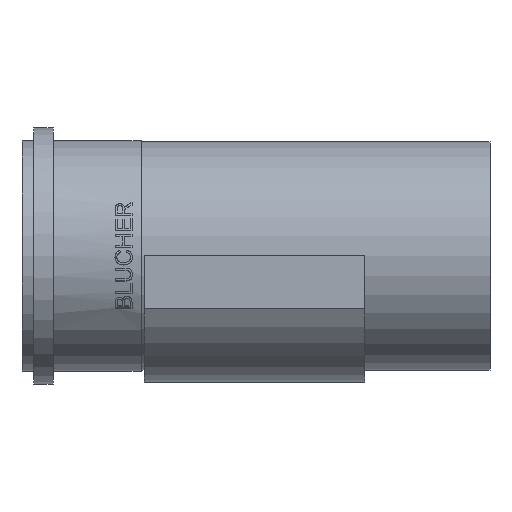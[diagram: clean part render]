
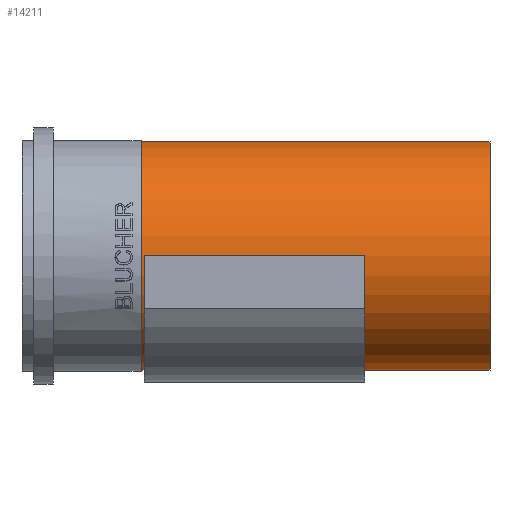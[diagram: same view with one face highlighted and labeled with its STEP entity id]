
A CAD part, top view. The second image highlights one B-rep face of the part: STEP entity #14211.
In plain terms, the highlighted cylindrical face has radius 62.484 mm (diameter 124.968 mm), a full revolution.
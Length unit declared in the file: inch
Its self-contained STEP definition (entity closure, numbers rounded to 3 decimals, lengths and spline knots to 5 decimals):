
#13939=CARTESIAN_POINT('',(-2.375,0.0,-2.46));
#13940=VERTEX_POINT('',#13939);
#13956=CARTESIAN_POINT('',(-2.375,0.0,2.46));
#13957=VERTEX_POINT('',#13956);
#13964=CARTESIAN_POINT('',(-2.375,0.0,0.0));
#13965=DIRECTION('',(-1.0,0.0,0.0));
#13966=DIRECTION('',(0.0,1.0,0.0));
#13967=AXIS2_PLACEMENT_3D('',#13964,#13965,#13966);
#13968=CIRCLE('',#13967,2.46);
#13969=EDGE_CURVE('',#13940,#13957,#13968,.T.);
#13981=CARTESIAN_POINT('',(2.375,0.0,2.46));
#13982=VERTEX_POINT('',#13981);
#13989=CARTESIAN_POINT('',(-2.375,0.0,2.46));
#13990=DIRECTION('',(1.0,0.0,0.0));
#13991=VECTOR('',#13990,4.75);
#13992=LINE('',#13989,#13991);
#13993=EDGE_CURVE('',#13957,#13982,#13992,.T.);
#14010=CARTESIAN_POINT('',(2.375,0.0,-2.46));
#14011=VERTEX_POINT('',#14010);
#14027=CARTESIAN_POINT('',(-2.375,0.0,-2.46));
#14028=DIRECTION('',(1.0,0.0,0.0));
#14029=VECTOR('',#14028,4.75);
#14030=LINE('',#14027,#14029);
#14031=EDGE_CURVE('',#13940,#14011,#14030,.T.);
#14062=CARTESIAN_POINT('',(2.375,0.0,0.0));
#14063=DIRECTION('',(1.0,0.0,0.0));
#14064=DIRECTION('',(0.0,1.0,0.0));
#14065=AXIS2_PLACEMENT_3D('',#14062,#14063,#14064);
#14066=CIRCLE('',#14065,2.46);
#14067=EDGE_CURVE('',#13982,#14011,#14066,.T.);
#14174=CARTESIAN_POINT('',(-2.4375,2.46,0.0));
#14175=VERTEX_POINT('',#14174);
#14176=CARTESIAN_POINT('',(-2.4375,0.0,0.0));
#14177=DIRECTION('',(1.0,0.0,0.0));
#14178=DIRECTION('',(0.0,1.0,0.0));
#14179=AXIS2_PLACEMENT_3D('',#14176,#14177,#14178);
#14180=CIRCLE('',#14179,2.46);
#14181=EDGE_CURVE('',#14175,#14175,#14180,.T.);
#14186=CARTESIAN_POINT('',(1.3125,0.0,0.0));
#14187=DIRECTION('',(1.0,0.0,0.0));
#14188=DIRECTION('',(0.0,1.0,0.0));
#14189=AXIS2_PLACEMENT_3D('',#14186,#14187,#14188);
#14190=CYLINDRICAL_SURFACE('',#14189,2.46);
#14191=CARTESIAN_POINT('',(5.0625,2.46,0.0));
#14192=VERTEX_POINT('',#14191);
#14193=CARTESIAN_POINT('',(5.0625,0.0,0.0));
#14194=DIRECTION('',(1.0,0.0,0.0));
#14195=DIRECTION('',(0.0,1.0,0.0));
#14196=AXIS2_PLACEMENT_3D('',#14193,#14194,#14195);
#14197=CIRCLE('',#14196,2.46);
#14198=EDGE_CURVE('',#14192,#14192,#14197,.T.);
#14199=ORIENTED_EDGE('',*,*,#14198,.F.);
#14200=EDGE_LOOP('',(#14199));
#14201=FACE_OUTER_BOUND('',#14200,.T.);
#14202=ORIENTED_EDGE('',*,*,#13969,.T.);
#14203=ORIENTED_EDGE('',*,*,#13993,.T.);
#14204=ORIENTED_EDGE('',*,*,#14067,.T.);
#14205=ORIENTED_EDGE('',*,*,#14031,.F.);
#14206=EDGE_LOOP('',(#14202,#14203,#14204,#14205));
#14207=FACE_BOUND('',#14206,.T.);
#14208=ORIENTED_EDGE('',*,*,#14181,.T.);
#14209=EDGE_LOOP('',(#14208));
#14210=FACE_BOUND('',#14209,.T.);
#14211=ADVANCED_FACE('',(#14201,#14207,#14210),#14190,.T.);
